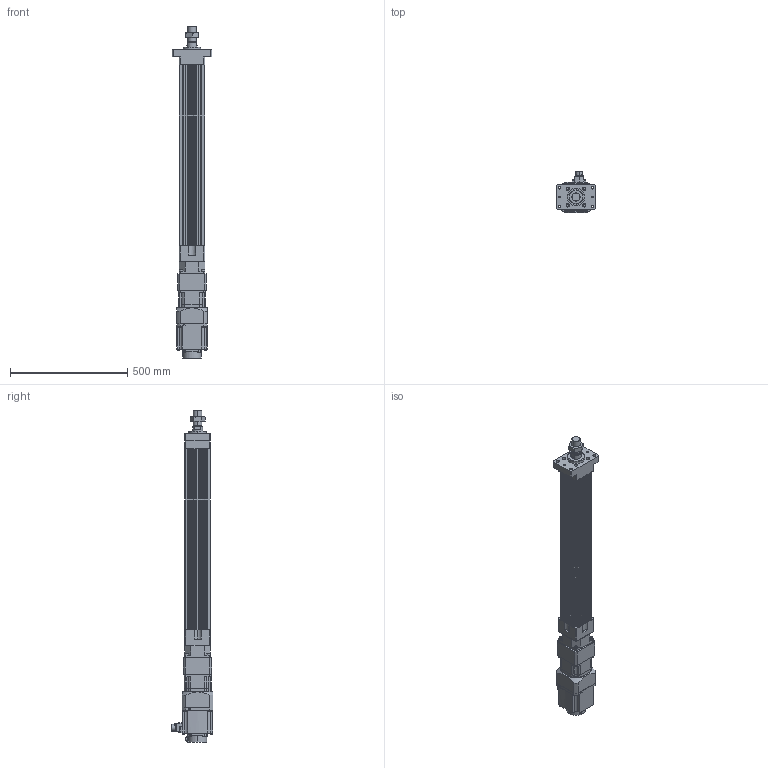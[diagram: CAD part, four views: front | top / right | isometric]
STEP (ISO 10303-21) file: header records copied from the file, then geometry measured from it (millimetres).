
FILE_DESCRIPTION (( 'STEP AP203' ), '1' );
FILE_NAME ('HES110NS(HS)-S600-W015G00-M-FM.STEP', '2023-01-28T06:48:29', ( 'tms' ), ( '' ), 'SwSTEP 2.0', 'SolidWorks 2013', '' );
FILE_SCHEMA (( 'CONFIG_CONTROL_DESIGN' ));
Length unit declared in the file: millimetre
Products named in the file (8): HES110-S600-G120-FM; P0401400706; HG-SR152; M36X1.5P; HES110NS(HS)-S600-W015G00-M-FM; AB1151; AB115-003[HG-SR152]; HES110 ROD M ST600
Assembly tree (7 placements, depth 3):
  HES110NS(HS)-S600-W015G00-M-FM
    HES110-S600-G120-FM
    HES110 ROD M ST600
    M36X1.5P
    AB115-003[HG-SR152]
      AB1151
      P0401400706
    HG-SR152
Bounding box: 170 x 177.49 x 1414.5 mm (x, y, z)
Volume: 9198869.9 mm3; surface area: 1299039.6 mm2
Topology: 4 solids, 15 shells, 1170 faces, 2958 edges, 1925 vertices
Faces by surface type: plane 559, cylinder 525, cone 74, bspline 8, torus 4
Entity records: 36974 total; most frequent: CARTESIAN_POINT 7028, DIRECTION 6389, ORIENTED_EDGE 5864, EDGE_CURVE 2942, AXIS2_PLACEMENT_3D 2346, VERTEX_POINT 1925, VECTOR 1697, LINE 1697
